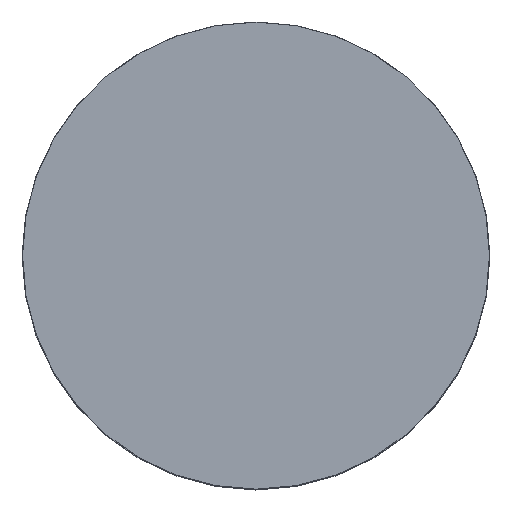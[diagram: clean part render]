
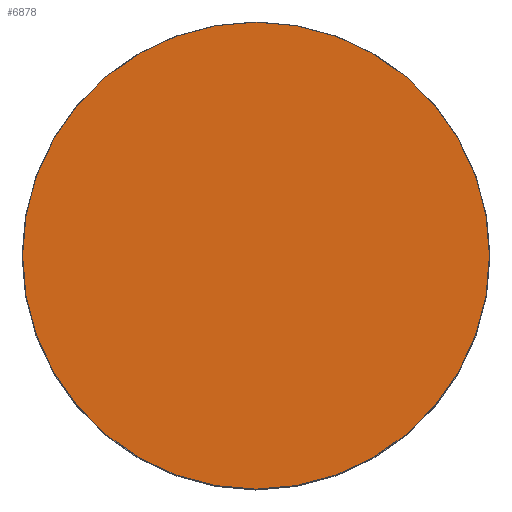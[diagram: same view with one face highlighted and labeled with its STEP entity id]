
A CAD part, top view. The second image highlights one B-rep face of the part: STEP entity #6878.
In plain terms, the highlighted planar face has unit normal (0, 0, 1).
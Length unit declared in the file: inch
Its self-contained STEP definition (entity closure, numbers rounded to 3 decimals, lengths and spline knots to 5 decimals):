
#830 = CIRCLE ( 'NONE', #849, 0.499 ) ;
#831 = FACE_OUTER_BOUND ( 'NONE', #6879, .T. ) ;
#840 = DIRECTION ( 'NONE',  ( -1., 0., 0. ) ) ;
#841 = DIRECTION ( 'NONE',  ( 0., 0., -1. ) ) ;
#842 = CARTESIAN_POINT ( 'NONE',  ( 0.499, 0., 1.26 ) ) ;
#843 = AXIS2_PLACEMENT_3D ( 'NONE', #842, #841, #840 ) ;
#845 = PLANE ( 'NONE',  #843 ) ;
#846 = DIRECTION ( 'NONE',  ( -1., 0., 0. ) ) ;
#847 = DIRECTION ( 'NONE',  ( 0., 0., -1. ) ) ;
#848 = CARTESIAN_POINT ( 'NONE',  ( 0., 0., 1.26 ) ) ;
#849 = AXIS2_PLACEMENT_3D ( 'NONE', #848, #847, #846 ) ;
#3230 = DIRECTION ( 'NONE',  ( -1., 0., 0. ) ) ;
#3231 = DIRECTION ( 'NONE',  ( 0., 0., -1. ) ) ;
#3232 = CARTESIAN_POINT ( 'NONE',  ( 0., 0., 1.26 ) ) ;
#3233 = AXIS2_PLACEMENT_3D ( 'NONE', #3232, #3231, #3230 ) ;
#3234 = CIRCLE ( 'NONE', #3233, 0.499 ) ;
#3240 = CARTESIAN_POINT ( 'NONE',  ( 0.499, 0., 1.26 ) ) ;
#3275 = CARTESIAN_POINT ( 'NONE',  ( -0.499, 0., 1.26 ) ) ;
#6391 = VERTEX_POINT ( 'NONE', #3275 ) ;
#6415 = VERTEX_POINT ( 'NONE', #3240 ) ;
#6419 = EDGE_CURVE ( 'NONE', #6391, #6415, #3234, .T. ) ;
#6875 = EDGE_CURVE ( 'NONE', #6415, #6391, #830, .T. ) ;
#6878 = ADVANCED_FACE ( 'NONE', ( #831 ), #845, .F. ) ;
#6879 = EDGE_LOOP ( 'NONE', ( #6880, #6990 ) ) ;
#6880 = ORIENTED_EDGE ( 'NONE', *, *, #6419, .F. ) ;
#6990 = ORIENTED_EDGE ( 'NONE', *, *, #6875, .F. ) ;
